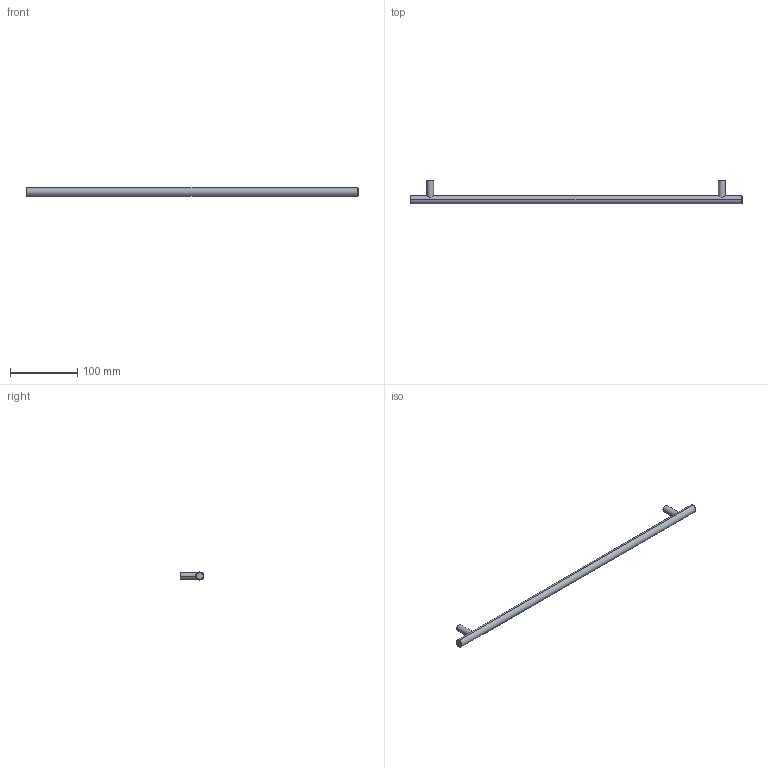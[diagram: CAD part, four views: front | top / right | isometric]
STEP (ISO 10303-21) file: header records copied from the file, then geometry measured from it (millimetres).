
FILE_DESCRIPTION( ( '' ), '1' );
FILE_NAME( 'C:/Documents and Settings/Sachin/Desktop/Sheet 10_1/stp/9070736.stp', '2013-10-22T12:36:58', ( '' ), ( '' ), ' ', ' ', ' ' );
FILE_SCHEMA( ( 'CONFIG_CONTROL_DESIGN' ) );
Length unit declared in the file: millimetre
Products named in the file (1): 1
Bounding box: 494 x 35 x 12 mm (x, y, z)
Volume: 59357.5 mm3; surface area: 20521.1 mm2
Topology: 1 solids, 1 shells, 20 faces, 44 edges, 30 vertices
Faces by surface type: cylinder 10, plane 6, torus 4
Entity records: 738 total; most frequent: CARTESIAN_POINT 229, DIRECTION 108, ORIENTED_EDGE 88, AXIS2_PLACEMENT_3D 49, EDGE_CURVE 44, VERTEX_POINT 30, CIRCLE 28, EDGE_LOOP 24
